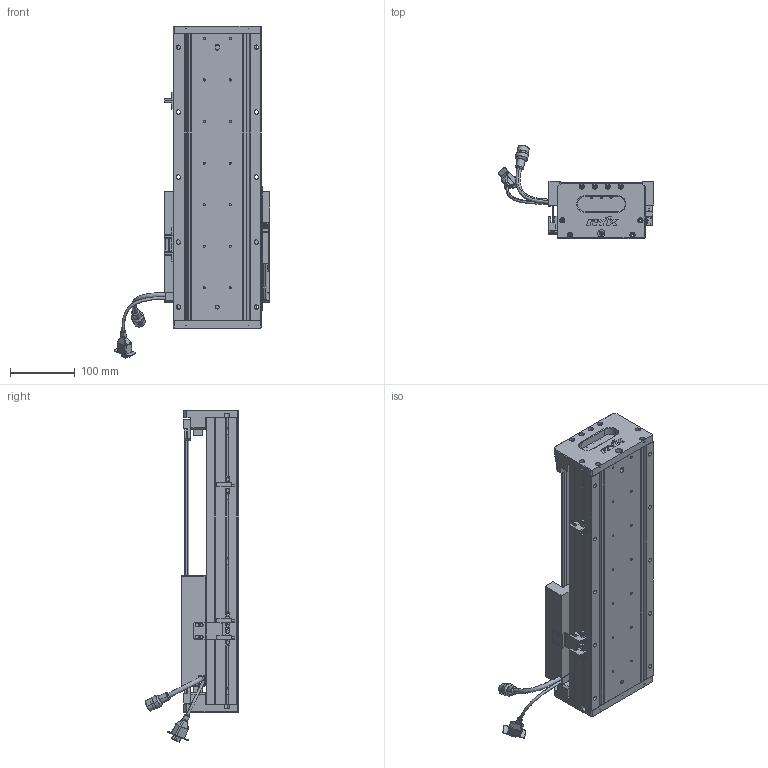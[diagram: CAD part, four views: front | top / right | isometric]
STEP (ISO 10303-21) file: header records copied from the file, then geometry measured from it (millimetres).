
FILE_DESCRIPTION (( 'STEP AP203' ), '1' );
FILE_NAME ('Z2-RY140D-1-L500-B-K.SLDASM_0200.step', '2021-05-17T07:44:34', ( '盈信电脑' ), ( '东莞市道滘镇水果街19号' ), 'SwSTEP 2.0', 'SolidWorks 2016', '' );
FILE_SCHEMA (( 'CONFIG_CONTROL_DESIGN' ));
Length unit declared in the file: millimetre
Products named in the file (36): HARNESS-Part-2; SCREW-M1.6-3; Z-140詩湍傷裔啣; 140蚥薯蝶輸; SCALE-Part-1; 140雄赽晤鎢ん堤盄; 覜茼ん672; 榋妏寠巭燃_暯_M2_2; HARNESS; COVER-Part-1; Z2-RY140-L500直线电机模组底座_0200; LABEL; 080黍杅芛假蚾釱21遴; Z2-RY140D-1-L500-B-K.SLDASM_0200; PBU_SHEET; LABEL-Part-1; SHIELDPLATE; SCREW-M1.6-1; SCREW-M1.7; Z2-RY140-L500詩湍100mm遵_0200; COVER; 140-Z-臏賑輸盄裔(21遴); HOLDER0; PSLH080_PSLF2; Z2-RY140圉猾敕臏賑輸(21遴); SCREW-M1.6; SEAL-Part-1; SEAL; SCREW-M1.7-1; Z-RY140感应器672光电感应片; SCALE-Part-2; SCREW-M1.6-2; Z-RY140詩湍狟揤裔; SCALE; HARNESS-Part-1; Z-RY140詩湍奻揤裔
Assembly tree (41 placements, depth 4):
  Z2-RY140D-1-L500-B-K.SLDASM_0200
    Z2-RY140-L500直线电机模组底座_0200
    Z-RY140感应器672光电感应片
    Z2-RY140圉猾敕臏賑輸(21遴)
    覜茼ん672  x3
    Z2-RY140-L500詩湍100mm遵_0200
    PSLH080_PSLF2
      SCALE
        SCALE-Part-1
        SCALE-Part-2
      HARNESS
        HARNESS-Part-1
        HARNESS-Part-2
      LABEL
        LABEL-Part-1
      COVER
        COVER-Part-1
      SEAL
        SEAL-Part-1
      榋妏寠巭燃_暯_M2_2
      SHIELDPLATE
      SCREW-M1.7
      SCREW-M1.7-1
      PBU_SHEET
      SCREW-M1.6
      SCREW-M1.6-1
      SCREW-M1.6-2
      SCREW-M1.6-3
      HOLDER0
    080黍杅芛假蚾釱21遴
    140-Z-臏賑輸盄裔(21遴)
    Z-140詩湍傷裔啣  x2
    Z-RY140詩湍狟揤裔  x2
    Z-RY140詩湍奻揤裔  x2
    140蚥薯蝶輸  x2
    140雄赽晤鎢ん堤盄
Bounding box: 239.84 x 143.77 x 510.88 mm (x, y, z)
Volume: 2250509.3 mm3; surface area: 591897 mm2
Topology: 36 solids, 36 shells, 2572 faces, 6676 edges, 4230 vertices
Faces by surface type: cylinder 1122, plane 1072, cone 246, torus 79, bspline 53
Entity records: 72480 total; most frequent: CARTESIAN_POINT 17258, DIRECTION 10816, ORIENTED_EDGE 10572, EDGE_CURVE 5286, AXIS2_PLACEMENT_3D 3956, VERTEX_POINT 3398, VECTOR 2904, LINE 2904
